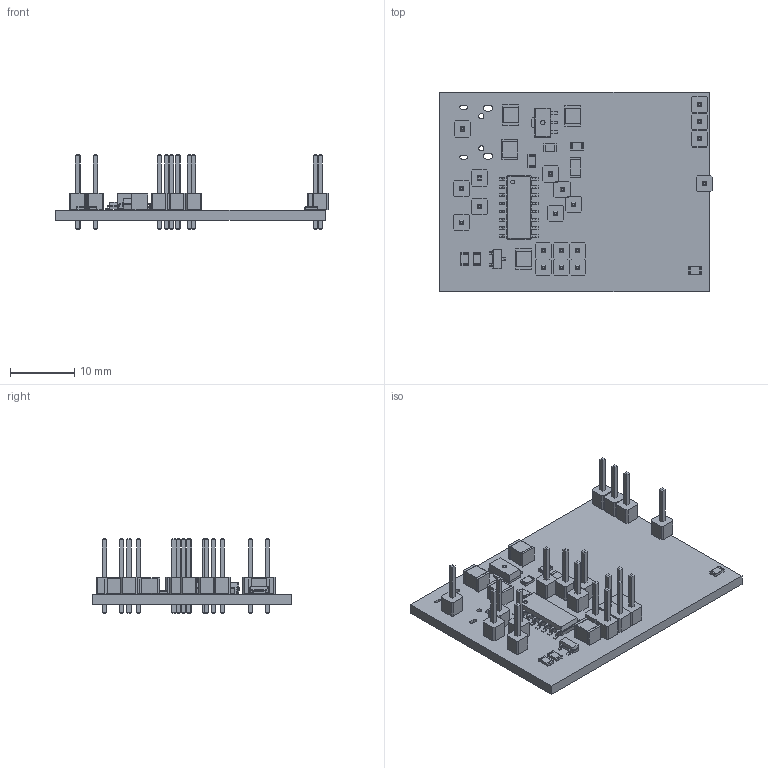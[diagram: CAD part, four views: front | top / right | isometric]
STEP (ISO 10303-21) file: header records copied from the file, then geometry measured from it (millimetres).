
FILE_DESCRIPTION(('KiCad electronic assembly'),'2;1');
FILE_NAME('weather_mux.step','2020-03-19T23:13:40',('An Author'),( 'A Company'),'Open CASCADE STEP processor 6.9', 'KiCad to STEP converter','Unknown');
FILE_SCHEMA(('AUTOMOTIVE_DESIGN { 1 0 10303 214 1 1 1 1 }'));
Length unit declared in the file: millimetre
Products named in the file (18): Open CASCADE STEP translator 6.9 1; PinHeader_1x01_P2.54mm_Vertical; SOLID; C_1210_3225Metric; SOT-23; R_0805_2012Metric; SOT-89-3; SOIC-16_3.9x9.9mm_P1.27mm; PinHeader_1x02_P2.54mm_Vertical; R_1206_3216Metric; COMPOUND
Assembly tree (39 placements, depth 3):
  Open CASCADE STEP translator 6.9 1
    PinHeader_1x01_P2.54mm_Vertical  x13
      SOLID
    C_1210_3225Metric  x4
      SOLID
    SOT-23
      SOLID
    R_0805_2012Metric  x6
      SOLID
    SOT-89-3
      SOLID
    SOIC-16_3.9x9.9mm_P1.27mm
      SOLID
    PinHeader_1x02_P2.54mm_Vertical  x3
      SOLID
    R_1206_3216Metric
      SOLID
    COMPOUND
Bounding box: 42.42 x 30.99 x 11.54 mm (x, y, z)
Volume: 2593.4 mm3; surface area: 4461.3 mm2
Topology: 31 solids, 31 shells, 1249 faces, 3101 edges, 1962 vertices
Faces by surface type: plane 974, cylinder 208, bspline 67
Full cylindrical faces by diameter (mm): 0.6 x1, 0.7 x1, 0.8 x2, 1 x16
Entity records: 42431 total; most frequent: CARTESIAN_POINT 7544, DIRECTION 5641, LINE 3870, VECTOR 3870, ORIENTED_EDGE 3066, PCURVE 3066, DEFINITIONAL_REPRESENTATION 3066, EDGE_CURVE 1533
